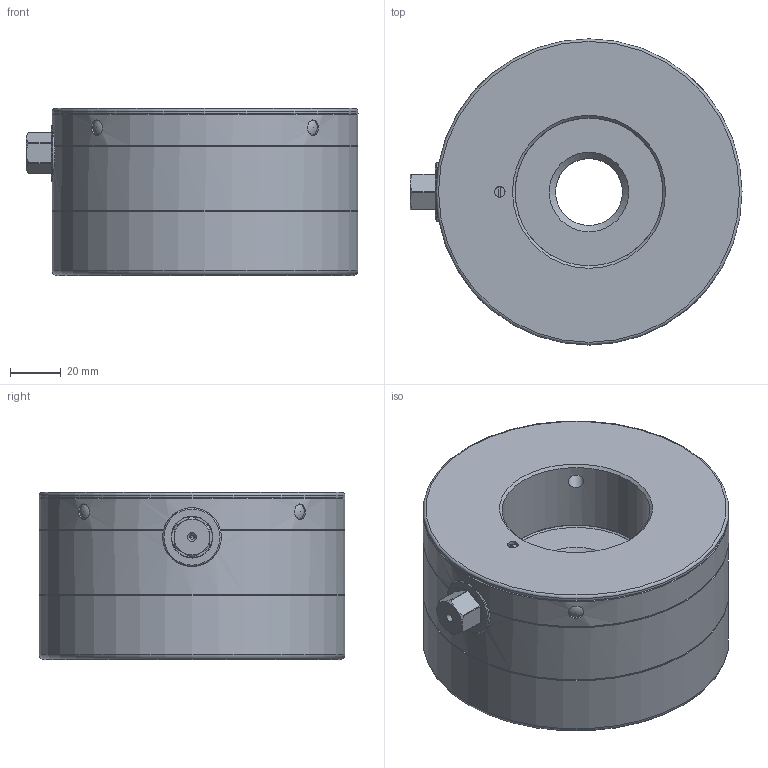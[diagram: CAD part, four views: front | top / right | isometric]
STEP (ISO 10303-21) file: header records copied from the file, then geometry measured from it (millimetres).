
FILE_DESCRIPTION(/* description */ ('Unknown','CAx-IF Rec.Pracs.---Representation and Presentation of Product Manufacturing Information (PMI)---4.0---2014-10-13','CAx-IF Rec.Pracs.---3D Tessellated Geometry---0.4---2014-09-14','2;1'),/* implementation_level */ '2;1');
FILE_NAME(/* name */ 'MDR 150 - M30 - SW14',/* time_stamp */ '2023-09-26T12:01:10+02:00',/* author */ ('Unknown'),/* organization */ ('Unknown'),/* preprocessor_version */ 'ST-DEVELOPER v18.102',/* originating_system */ 'Solid Edge',/* authorisation */ 'Unknown');
FILE_SCHEMA (('AP242_MANAGED_MODEL_BASED_3D_ENGINEERING_MIM_LF { 1 0 10303 442 1 1 4 }'));
Length unit declared in the file: millimetre
Products named in the file (1): 16332776_Vereinfachung
Bounding box: 130.2 x 120 x 65.5 mm (x, y, z)
Volume: 640635.7 mm3; surface area: 58649.2 mm2
Topology: 1 solids, 1 shells, 96 faces, 229 edges, 144 vertices
Faces by surface type: plane 31, cone 27, cylinder 27, sphere 8, torus 3
Full cylindrical faces by diameter (mm): 1.6 x2, 4.134 x1, 6 x8, 12 x1, 16 x1, 26.211 x1, 52 x1, 58 x1, 67 x1, 119 x1, 120 x4
Entity records: 3067 total; most frequent: CARTESIAN_POINT 546, DIRECTION 394, ORIENTED_EDGE 294, AXIS2_PLACEMENT_3D 182, FACE_BOUND 162, EDGE_LOOP 160, EDGE_CURVE 147, VERTEX_POINT 117
